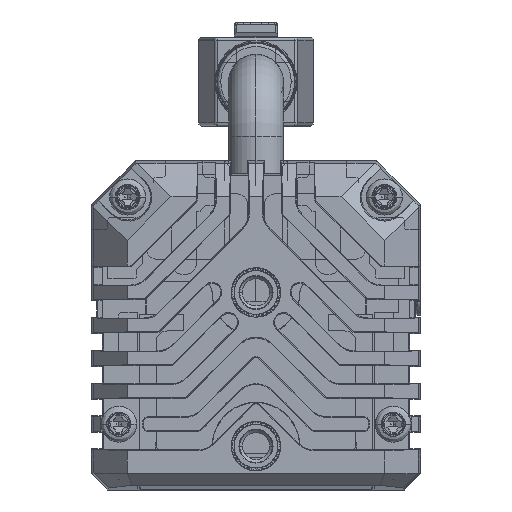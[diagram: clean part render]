
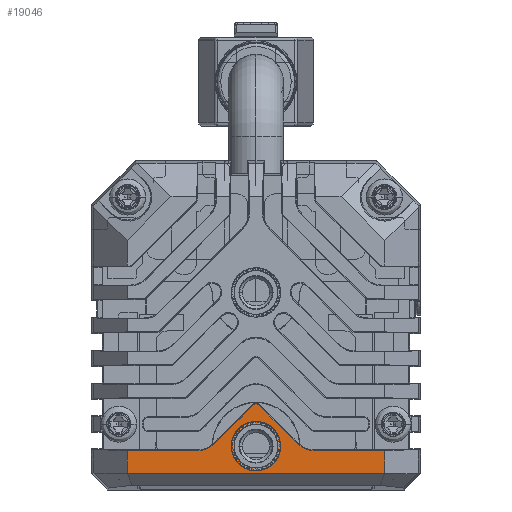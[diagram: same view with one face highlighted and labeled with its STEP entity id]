
A CAD part, left-side view. The second image highlights one B-rep face of the part: STEP entity #19046.
In plain terms, the highlighted planar face has unit normal (-1, 0, 0) as drawn and (1, 0, 0) by its records, which use the part's own axes.
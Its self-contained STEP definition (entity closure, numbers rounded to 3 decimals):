
#11954=CARTESIAN_POINT('',(5.,0.,7.527));
#11955=DIRECTION('',(1.,0.,0.));
#11956=DIRECTION('',(0.,0.707,0.707));
#11957=AXIS2_PLACEMENT_3D('',#11954,#11955,#11956);
#11963=DIRECTION('',(0.,0.707,-0.707));
#11964=VECTOR('',#11963,5.013);
#11965=CARTESIAN_POINT('',(5.,0.242,7.769));
#11966=LINE('',#11965,#11964);
#11970=DIRECTION('',(0.,-1.,0.));
#11971=VECTOR('',#11970,6.438);
#11972=CARTESIAN_POINT('',(5.,11.75,3.593));
#11973=LINE('',#11972,#11971);
#11977=DIRECTION('',(0.,0.,1.));
#11978=VECTOR('',#11977,2.093);
#11979=CARTESIAN_POINT('',(5.,11.75,1.5));
#11980=LINE('',#11979,#11978);
#11984=DIRECTION('',(0.,1.,0.));
#11985=VECTOR('',#11984,23.5);
#11986=CARTESIAN_POINT('',(5.,-11.75,1.5));
#11987=LINE('',#11986,#11985);
#11991=DIRECTION('',(0.,0.,-1.));
#11992=VECTOR('',#11991,2.093);
#11993=CARTESIAN_POINT('',(5.,-11.75,3.593));
#11994=LINE('',#11993,#11992);
#11998=DIRECTION('',(0.,1.,0.));
#11999=VECTOR('',#11998,6.438);
#12000=CARTESIAN_POINT('',(5.,-11.75,3.593));
#12001=LINE('',#12000,#11999);
#12005=DIRECTION('',(0.,0.707,0.707));
#12006=VECTOR('',#12005,5.013);
#12007=CARTESIAN_POINT('',(5.,-3.787,4.225));
#12008=LINE('',#12007,#12006);
#12012=CARTESIAN_POINT('',(5.,0.,4.));
#12013=DIRECTION('',(1.,0.,0.));
#12014=DIRECTION('',(0.,1.,0.));
#12015=AXIS2_PLACEMENT_3D('',#12012,#12013,#12014);
#12020=CARTESIAN_POINT('',(5.,0.,4.));
#12021=DIRECTION('',(1.,0.,0.));
#12022=DIRECTION('',(0.,-1.,0.));
#12023=AXIS2_PLACEMENT_3D('',#12020,#12021,#12022);
#12749=CARTESIAN_POINT('',(5.,-5.312,5.75));
#12750=DIRECTION('',(-1.,0.,0.));
#12751=DIRECTION('',(0.,0.707,-0.707));
#12752=AXIS2_PLACEMENT_3D('',#12749,#12750,#12751);
#16268=CARTESIAN_POINT('',(5.,5.312,5.75));
#16269=DIRECTION('',(-1.,0.,0.));
#16270=DIRECTION('',(0.,0.,-1.));
#16271=AXIS2_PLACEMENT_3D('',#16268,#16269,#16270);
#17941=CARTESIAN_POINT('',(5.,2.,4.));
#17942=CARTESIAN_POINT('',(5.,-2.,4.));
#17943=VERTEX_POINT('',#17941);
#17944=VERTEX_POINT('',#17942);
#17945=CARTESIAN_POINT('',(5.,-11.75,1.5));
#17946=CARTESIAN_POINT('',(5.,11.75,1.5));
#17947=VERTEX_POINT('',#17945);
#17948=VERTEX_POINT('',#17946);
#18047=CARTESIAN_POINT('',(5.,5.312,3.593));
#18048=VERTEX_POINT('',#18047);
#18049=CARTESIAN_POINT('',(5.,3.787,4.225));
#18050=VERTEX_POINT('',#18049);
#18055=CARTESIAN_POINT('',(5.,-3.787,4.225));
#18056=VERTEX_POINT('',#18055);
#18057=CARTESIAN_POINT('',(5.,-5.312,3.593));
#18058=VERTEX_POINT('',#18057);
#18135=CARTESIAN_POINT('',(5.,-11.75,3.593));
#18136=VERTEX_POINT('',#18135);
#18137=CARTESIAN_POINT('',(5.,11.75,3.593));
#18138=VERTEX_POINT('',#18137);
#18155=CARTESIAN_POINT('',(5.,0.242,7.769));
#18156=CARTESIAN_POINT('',(5.,-0.242,7.769));
#18157=VERTEX_POINT('',#18155);
#18158=VERTEX_POINT('',#18156);
#19013=CARTESIAN_POINT('',(5.,0.,0.));
#19014=DIRECTION('',(1.,0.,0.));
#19015=DIRECTION('',(0.,1.,0.));
#19016=AXIS2_PLACEMENT_3D('',#19013,#19014,#19015);
#19017=PLANE('',#19016);
#19019=ORIENTED_EDGE('',*,*,#19018,.F.);
#19021=ORIENTED_EDGE('',*,*,#19020,.T.);
#19023=ORIENTED_EDGE('',*,*,#19022,.F.);
#19025=ORIENTED_EDGE('',*,*,#19024,.F.);
#19027=ORIENTED_EDGE('',*,*,#19026,.F.);
#19029=ORIENTED_EDGE('',*,*,#19028,.F.);
#19031=ORIENTED_EDGE('',*,*,#19030,.F.);
#19033=ORIENTED_EDGE('',*,*,#19032,.T.);
#19035=ORIENTED_EDGE('',*,*,#19034,.F.);
#19037=ORIENTED_EDGE('',*,*,#19036,.T.);
#19038=EDGE_LOOP('',(#19019,#19021,#19023,#19025,#19027,#19029,#19031,#19033,
#19035,#19037));
#19039=FACE_OUTER_BOUND('',#19038,.F.);
#19041=ORIENTED_EDGE('',*,*,#19040,.T.);
#19043=ORIENTED_EDGE('',*,*,#19042,.T.);
#19044=EDGE_LOOP('',(#19041,#19043));
#19045=FACE_BOUND('',#19044,.F.);
#11958=CIRCLE('',#11957,0.343);
#12016=CIRCLE('',#12015,2.);
#12024=CIRCLE('',#12023,2.);
#12753=CIRCLE('',#12752,2.157);
#16272=CIRCLE('',#16271,2.157);
#19018=EDGE_CURVE('',#18157,#18158,#11958,.T.);
#19020=EDGE_CURVE('',#18157,#18050,#11966,.T.);
#19022=EDGE_CURVE('',#18048,#18050,#16272,.T.);
#19024=EDGE_CURVE('',#18138,#18048,#11973,.T.);
#19026=EDGE_CURVE('',#17948,#18138,#11980,.T.);
#19028=EDGE_CURVE('',#17947,#17948,#11987,.T.);
#19030=EDGE_CURVE('',#18136,#17947,#11994,.T.);
#19032=EDGE_CURVE('',#18136,#18058,#12001,.T.);
#19034=EDGE_CURVE('',#18056,#18058,#12753,.T.);
#19036=EDGE_CURVE('',#18056,#18158,#12008,.T.);
#19040=EDGE_CURVE('',#17943,#17944,#12016,.T.);
#19042=EDGE_CURVE('',#17944,#17943,#12024,.T.);
#19046=ADVANCED_FACE('',(#19039,#19045),#19017,.T.);
